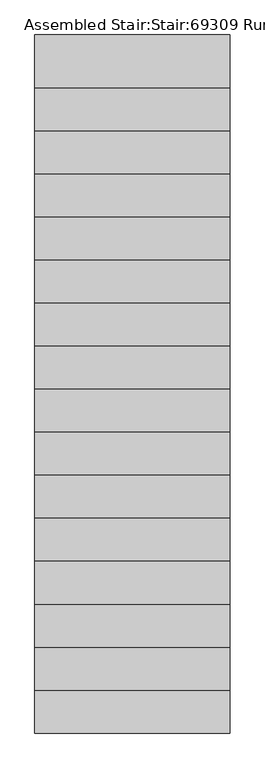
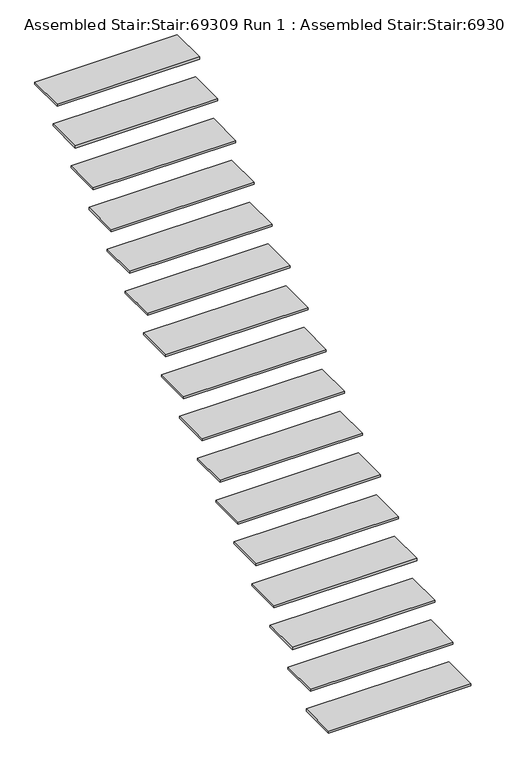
"""IFC4 building model written with IfcOpenShell, lengths in millimetres: stair geometry, Assembled Stair:Stair:69309 Run 1 : Assembled Stair:Stair:69309 Run 1."""

from ifc_helpers import new_model, si_unit, frame, origin, place, context, project, spatial, polyline, outline, extrude, source, transform, mapped, element, save


def assembled_stair_stair_69309_run_1_assembled_stair_stair_6317ac3c(model_context):
    return source(origin(), model_context, "Body", "SweptSolid", [
        extrude(outline(polyline([(19274.8089026, -28024.6322236), (19274.8089026, -27754.6322236), (20274.8089026, -27754.6322236), (20274.8089026, -28024.6322236), (19274.8089026, -28024.6322236)])), frame((0.0, 0.0, 2808.5294118), z_axis=(0.0, 0.0, 1.0), x_axis=(1.0, 0.0, 0.0)), (0.0, 0.0, 1.0), 15.0),
        extrude(outline(polyline([(19274.8089026, -28244.6322236), (19274.8089026, -27974.6322236), (20274.8089026, -27974.6322236), (20274.8089026, -28244.6322236), (19274.8089026, -28244.6322236)])), frame((0.0, 0.0, 2632.0588235), z_axis=(0.0, 0.0, 1.0), x_axis=(1.0, 0.0, 0.0)), (0.0, 0.0, 1.0), 15.0),
        extrude(outline(polyline([(19274.8089026, -28464.6322236), (19274.8089026, -28194.6322236), (20274.8089026, -28194.6322236), (20274.8089026, -28464.6322236), (19274.8089026, -28464.6322236)])), frame((0.0, 0.0, 2455.5882353), z_axis=(0.0, 0.0, 1.0), x_axis=(1.0, 0.0, 0.0)), (0.0, 0.0, 1.0), 15.0),
        extrude(outline(polyline([(19274.8089026, -28684.6322236), (19274.8089026, -28414.6322236), (20274.8089026, -28414.6322236), (20274.8089026, -28684.6322236), (19274.8089026, -28684.6322236)])), frame((0.0, 0.0, 2279.1176471), z_axis=(0.0, 0.0, 1.0), x_axis=(1.0, 0.0, 0.0)), (0.0, 0.0, 1.0), 15.0),
        extrude(outline(polyline([(19274.8089026, -28904.6322236), (19274.8089026, -28634.6322236), (20274.8089026, -28634.6322236), (20274.8089026, -28904.6322236), (19274.8089026, -28904.6322236)])), frame((0.0, 0.0, 2102.6470588), z_axis=(0.0, 0.0, 1.0), x_axis=(1.0, 0.0, 0.0)), (0.0, 0.0, 1.0), 15.0),
        extrude(outline(polyline([(19274.8089026, -29124.6322236), (19274.8089026, -28854.6322236), (20274.8089026, -28854.6322236), (20274.8089026, -29124.6322236), (19274.8089026, -29124.6322236)])), frame((0.0, 0.0, 1926.1764706), z_axis=(0.0, 0.0, 1.0), x_axis=(1.0, 0.0, 0.0)), (0.0, 0.0, 1.0), 15.0),
        extrude(outline(polyline([(19274.8089026, -29344.6322236), (19274.8089026, -29074.6322236), (20274.8089026, -29074.6322236), (20274.8089026, -29344.6322236), (19274.8089026, -29344.6322236)])), frame((0.0, 0.0, 1749.7058824), z_axis=(0.0, 0.0, 1.0), x_axis=(1.0, 0.0, 0.0)), (0.0, 0.0, 1.0), 15.0),
        extrude(outline(polyline([(19274.8089026, -29564.6322236), (19274.8089026, -29294.6322236), (20274.8089026, -29294.6322236), (20274.8089026, -29564.6322236), (19274.8089026, -29564.6322236)])), frame((0.0, 0.0, 1573.2352941), z_axis=(0.0, 0.0, 1.0), x_axis=(1.0, 0.0, 0.0)), (0.0, 0.0, 1.0), 15.0),
        extrude(outline(polyline([(19274.8089026, -29784.6322236), (19274.8089026, -29514.6322236), (20274.8089026, -29514.6322236), (20274.8089026, -29784.6322236), (19274.8089026, -29784.6322236)])), frame((0.0, 0.0, 1396.7647059), z_axis=(0.0, 0.0, 1.0), x_axis=(1.0, 0.0, 0.0)), (0.0, 0.0, 1.0), 15.0),
        extrude(outline(polyline([(19274.8089026, -30004.6322236), (19274.8089026, -29734.6322236), (20274.8089026, -29734.6322236), (20274.8089026, -30004.6322236), (19274.8089026, -30004.6322236)])), frame((0.0, 0.0, 1220.2941176), z_axis=(0.0, 0.0, 1.0), x_axis=(1.0, 0.0, 0.0)), (0.0, 0.0, 1.0), 15.0),
        extrude(outline(polyline([(19274.8089026, -30224.6322236), (19274.8089026, -29954.6322236), (20274.8089026, -29954.6322236), (20274.8089026, -30224.6322236), (19274.8089026, -30224.6322236)])), frame((0.0, 0.0, 1043.8235294), z_axis=(0.0, 0.0, 1.0), x_axis=(1.0, 0.0, 0.0)), (0.0, 0.0, 1.0), 15.0),
        extrude(outline(polyline([(19274.8089026, -30444.6322236), (19274.8089026, -30174.6322236), (20274.8089026, -30174.6322236), (20274.8089026, -30444.6322236), (19274.8089026, -30444.6322236)])), frame((0.0, 0.0, 867.3529412), z_axis=(0.0, 0.0, 1.0), x_axis=(1.0, 0.0, 0.0)), (0.0, 0.0, 1.0), 15.0),
        extrude(outline(polyline([(19274.8089026, -30664.6322236), (19274.8089026, -30394.6322236), (20274.8089026, -30394.6322236), (20274.8089026, -30664.6322236), (19274.8089026, -30664.6322236)])), frame((0.0, 0.0, 690.8823529), z_axis=(0.0, 0.0, 1.0), x_axis=(1.0, 0.0, 0.0)), (0.0, 0.0, 1.0), 15.0),
        extrude(outline(polyline([(19274.8089026, -30884.6322236), (19274.8089026, -30614.6322236), (20274.8089026, -30614.6322236), (20274.8089026, -30884.6322236), (19274.8089026, -30884.6322236)])), frame((0.0, 0.0, 514.4117647), z_axis=(0.0, 0.0, 1.0), x_axis=(1.0, 0.0, 0.0)), (0.0, 0.0, 1.0), 15.0),
        extrude(outline(polyline([(19274.8089026, -31104.6322236), (19274.8089026, -30834.6322236), (20274.8089026, -30834.6322236), (20274.8089026, -31104.6322236), (19274.8089026, -31104.6322236)])), frame((0.0, 0.0, 337.9411765), z_axis=(0.0, 0.0, 1.0), x_axis=(1.0, 0.0, 0.0)), (0.0, 0.0, 1.0), 15.0),
        extrude(outline(polyline([(19274.8089026, -31324.6322236), (19274.8089026, -31054.6322236), (20274.8089026, -31054.6322236), (20274.8089026, -31324.6322236), (19274.8089026, -31324.6322236)])), frame((0.0, 0.0, 161.4705882), z_axis=(0.0, 0.0, 1.0), x_axis=(1.0, 0.0, 0.0)), (0.0, 0.0, 1.0), 15.0),
    ])


if __name__ == "__main__":
    model = new_model("IFC4")
    model_context = context("Model", 3, world=origin())
    ifc_project = project(units=[si_unit("LENGTHUNIT", "METRE", prefix="MILLI")], contexts=[model_context])
    site = spatial("IfcSite", under=ifc_project)
    building = spatial("IfcBuilding", under=site)
    placement = place(None, origin())
    assembled_stair_stair_69309_run_1_assembled_stair_stair_shape = assembled_stair_stair_69309_run_1_assembled_stair_stair_6317ac3c(model_context)
    element("IfcStair", 1, ObjectType="Assembled Stair:Stair:69309 Run 1 : Assembled Stair:Stair:69309 Run 1", at=placement, inside=building, context=model_context, shape_type="MappedRepresentation", body=[
        mapped(assembled_stair_stair_69309_run_1_assembled_stair_stair_shape, transform((0.0, 0.0, 0.0), x_axis=(1.0, 0.0, 0.0), y_axis=(0.0, 1.0, 0.0), z_axis=(0.0, 0.0, 1.0))),
    ])
    save(model, "model.ifc")
